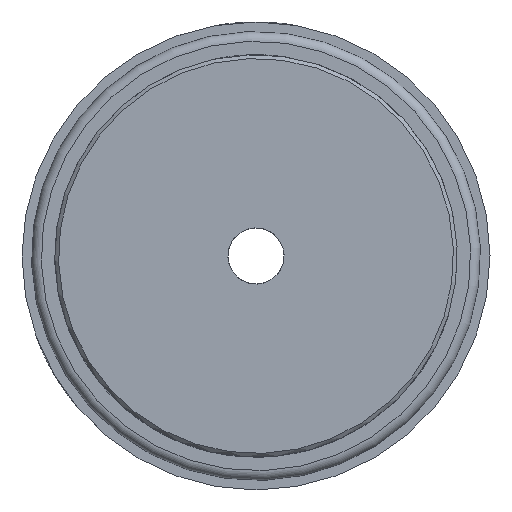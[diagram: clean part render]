
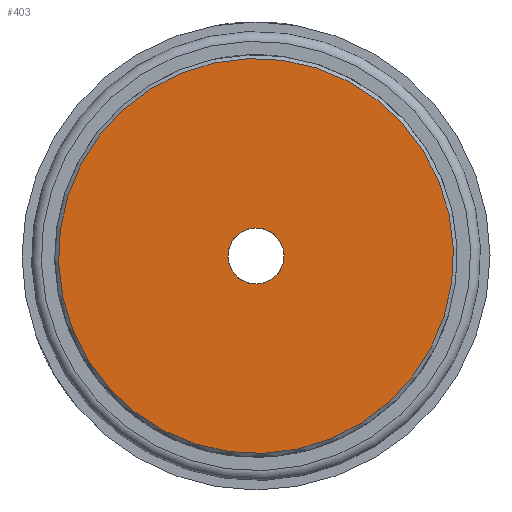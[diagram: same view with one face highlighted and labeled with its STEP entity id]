
A CAD part, left-side view. The second image highlights one B-rep face of the part: STEP entity #403.
In plain terms, the highlighted planar face has unit normal (-1, 0, 0).
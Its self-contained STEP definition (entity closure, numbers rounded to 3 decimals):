
#403 = ADVANCED_FACE( 'NONE', ( #886, #887 ), #888, .F. );
#886 = FACE_OUTER_BOUND( '', #1494, .T. );
#887 = FACE_BOUND( '', #1495, .T. );
#888 = PLANE( '', #1496 );
#1494 = EDGE_LOOP( '', ( #2367 ) );
#1495 = EDGE_LOOP( '', ( #2368 ) );
#1496 = AXIS2_PLACEMENT_3D( '', #2369, #2370, #2371 );
#2367 = ORIENTED_EDGE( '', *, *, #3288, .T. );
#2368 = ORIENTED_EDGE( '', *, *, #3289, .F. );
#2369 = CARTESIAN_POINT( '', ( 0., 1.5, 0. ) );
#2370 = DIRECTION( '', ( 1., 0., 0. ) );
#2371 = DIRECTION( '', ( 0., 1., 0. ) );
#3288 = EDGE_CURVE( 'NONE', #3893, #3893, #3894, .T. );
#3289 = EDGE_CURVE( 'NONE', #3895, #3895, #3896, .T. );
#3893 = VERTEX_POINT( '', #4803 );
#3894 = CIRCLE( '', #4804, 10.55 );
#3895 = VERTEX_POINT( '', #4805 );
#3896 = CIRCLE( '', #4806, 1.5 );
#4803 = CARTESIAN_POINT( '', ( 0., 0., -10.55 ) );
#4804 = AXIS2_PLACEMENT_3D( '', #5662, #5663, #5664 );
#4805 = CARTESIAN_POINT( '', ( 0., 0., 1.5 ) );
#4806 = AXIS2_PLACEMENT_3D( '', #5665, #5666, #5667 );
#5662 = CARTESIAN_POINT( '', ( 0., 0., 0. ) );
#5663 = DIRECTION( '', ( -1., 0., 0. ) );
#5664 = DIRECTION( '', ( 0., 0., -1. ) );
#5665 = CARTESIAN_POINT( '', ( 0., 0., 0. ) );
#5666 = DIRECTION( '', ( -1., 0., 0. ) );
#5667 = DIRECTION( '', ( 0., 0., 1. ) );
